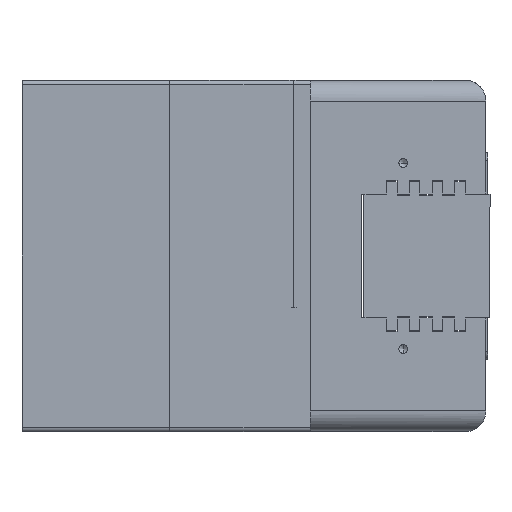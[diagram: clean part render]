
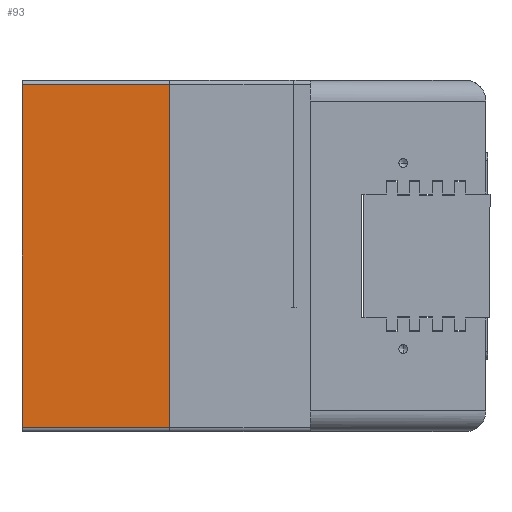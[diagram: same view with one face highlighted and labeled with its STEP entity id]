
A CAD part, left-side view. The second image highlights one B-rep face of the part: STEP entity #93.
In plain terms, the highlighted planar face has unit normal (-1, 0, 0).
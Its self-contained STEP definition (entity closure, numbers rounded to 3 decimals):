
#93 = ADVANCED_FACE ( 'NONE', ( #9806 ), #6759, .F. ) ;
#150 = ORIENTED_EDGE ( 'NONE', *, *, #7314, .F. ) ;
#160 = DIRECTION ( 'NONE',  ( 1., 0., 0. ) ) ;
#244 = LINE ( 'NONE', #7266, #8178 ) ;
#885 = EDGE_LOOP ( 'NONE', ( #150, #2742, #12802, #7714 ) ) ;
#1862 = CARTESIAN_POINT ( 'NONE',  ( -142.5, 85., 83. ) ) ;
#2533 = LINE ( 'NONE', #1862, #8069 ) ;
#2742 = ORIENTED_EDGE ( 'NONE', *, *, #13466, .T. ) ;
#3546 = DIRECTION ( 'NONE',  ( 0., 0., 1. ) ) ;
#3868 = VERTEX_POINT ( 'NONE', #4409 ) ;
#4008 = DIRECTION ( 'NONE',  ( 0., 0., 1. ) ) ;
#4035 = AXIS2_PLACEMENT_3D ( 'NONE', #4649, #160, #7936 ) ;
#4129 = CARTESIAN_POINT ( 'NONE',  ( -142.5, 71.5, 83. ) ) ;
#4386 = LINE ( 'NONE', #7215, #9202 ) ;
#4409 = CARTESIAN_POINT ( 'NONE',  ( -142.5, 0., -83. ) ) ;
#4649 = CARTESIAN_POINT ( 'NONE',  ( -142.5, 85., -85. ) ) ;
#5213 = DIRECTION ( 'NONE',  ( 0., -1., 0. ) ) ;
#6165 = VERTEX_POINT ( 'NONE', #4129 ) ;
#6759 = PLANE ( 'NONE',  #4035 ) ;
#6939 = CARTESIAN_POINT ( 'NONE',  ( -142.5, 0., 0. ) ) ;
#7215 = CARTESIAN_POINT ( 'NONE',  ( -142.5, 71.5, -85. ) ) ;
#7266 = CARTESIAN_POINT ( 'NONE',  ( -142.5, 85., -83. ) ) ;
#7298 = EDGE_CURVE ( 'NONE', #13215, #6165, #4386, .T. ) ;
#7314 = EDGE_CURVE ( 'NONE', #3868, #13215, #244, .T. ) ;
#7714 = ORIENTED_EDGE ( 'NONE', *, *, #7298, .F. ) ;
#7800 = CARTESIAN_POINT ( 'NONE',  ( -142.5, 71.5, -83. ) ) ;
#7936 = DIRECTION ( 'NONE',  ( 0., 0., -1. ) ) ;
#8039 = LINE ( 'NONE', #6939, #8732 ) ;
#8069 = VECTOR ( 'NONE', #5213, 1000. ) ;
#8178 = VECTOR ( 'NONE', #12749, 1000. ) ;
#8732 = VECTOR ( 'NONE', #3546, 1000. ) ;
#9202 = VECTOR ( 'NONE', #4008, 1000. ) ;
#9662 = VERTEX_POINT ( 'NONE', #12822 ) ;
#9806 = FACE_OUTER_BOUND ( 'NONE', #885, .T. ) ;
#9907 = EDGE_CURVE ( 'NONE', #6165, #9662, #2533, .T. ) ;
#12749 = DIRECTION ( 'NONE',  ( 0., 1., 0. ) ) ;
#12802 = ORIENTED_EDGE ( 'NONE', *, *, #9907, .F. ) ;
#12822 = CARTESIAN_POINT ( 'NONE',  ( -142.5, 0., 83. ) ) ;
#13215 = VERTEX_POINT ( 'NONE', #7800 ) ;
#13466 = EDGE_CURVE ( 'NONE', #3868, #9662, #8039, .T. ) ;
